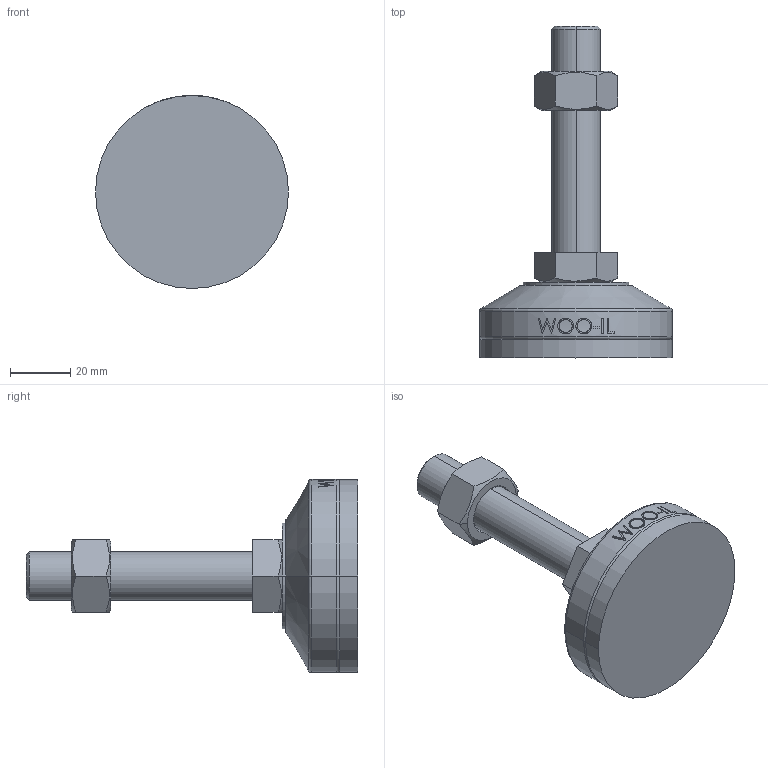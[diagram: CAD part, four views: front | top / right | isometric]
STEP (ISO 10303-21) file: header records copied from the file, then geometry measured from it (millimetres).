
FILE_DESCRIPTION (( 'STEP AP214' ), '1' );
FILE_NAME ('MFR64-M16-75.step', '2021-01-13T05:37:20', ( '' ), ( '' ), 'SwSTEP 2.0', 'SolidWorks 2019', '' );
FILE_SCHEMA (( 'AUTOMOTIVE_DESIGN' ));
Length unit declared in the file: millimetre
Products named in the file (2): MFR64-M16-75
Bounding box: 64 x 110 x 64 mm (x, y, z)
Volume: 92558.2 mm3; surface area: 24186.8 mm2
Topology: 4 solids, 4 shells, 103 faces, 235 edges, 150 vertices
Faces by surface type: plane 49, cylinder 18, bspline 16, cone 14, torus 6
Entity records: 4393 total; most frequent: CARTESIAN_POINT 2120, ORIENTED_EDGE 470, DIRECTION 417, EDGE_CURVE 235, AXIS2_PLACEMENT_3D 159, VERTEX_POINT 150, EDGE_LOOP 115, FACE_OUTER_BOUND 103
